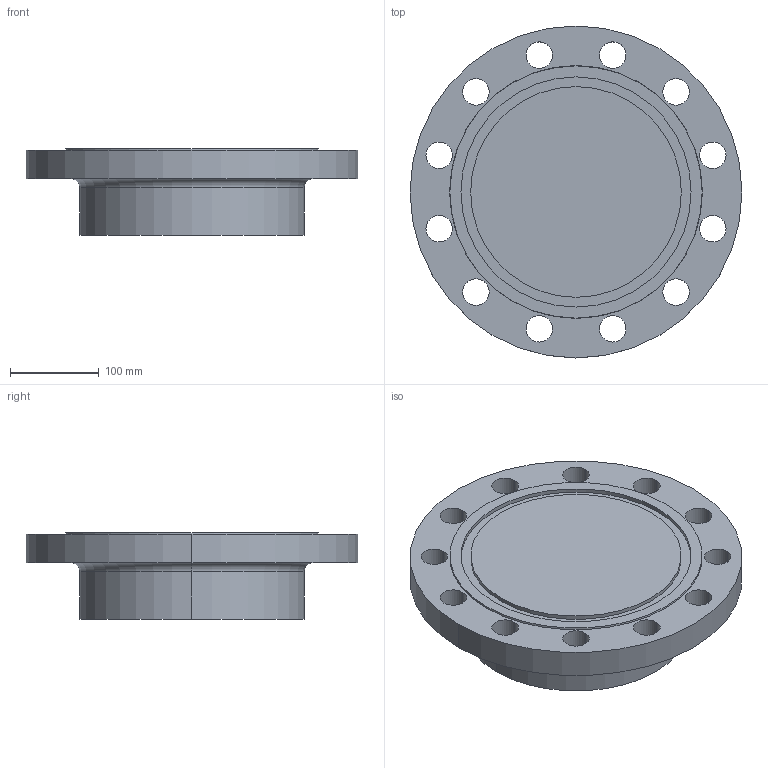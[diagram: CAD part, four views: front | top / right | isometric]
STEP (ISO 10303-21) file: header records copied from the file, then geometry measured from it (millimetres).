
FILE_DESCRIPTION (( 'STEP AP214' ), '1' );
FILE_NAME ('PN40 DN200 Type 21(i) - Type D Face.STEP', '2019-01-05T02:05:10', ( '' ), ( '' ), 'SwSTEP 2.0', 'SolidWorks 2019', '' );
FILE_SCHEMA (( 'AUTOMOTIVE_DESIGN' ));
Length unit declared in the file: millimetre
Products named in the file (1): PN40 DN200 Type 21(i) - Type D Face
Bounding box: 375 x 375 x 98 mm (x, y, z)
Volume: 6612393.9 mm3; surface area: 334053 mm2
Topology: 1 solids, 1 shells, 42 faces, 106 edges, 70 vertices
Faces by surface type: cylinder 32, plane 6, torus 2, cone 2
Entity records: 1388 total; most frequent: DIRECTION 264, CARTESIAN_POINT 219, ORIENTED_EDGE 212, AXIS2_PLACEMENT_3D 115, EDGE_CURVE 106, CIRCLE 72, VERTEX_POINT 70, EDGE_LOOP 70
